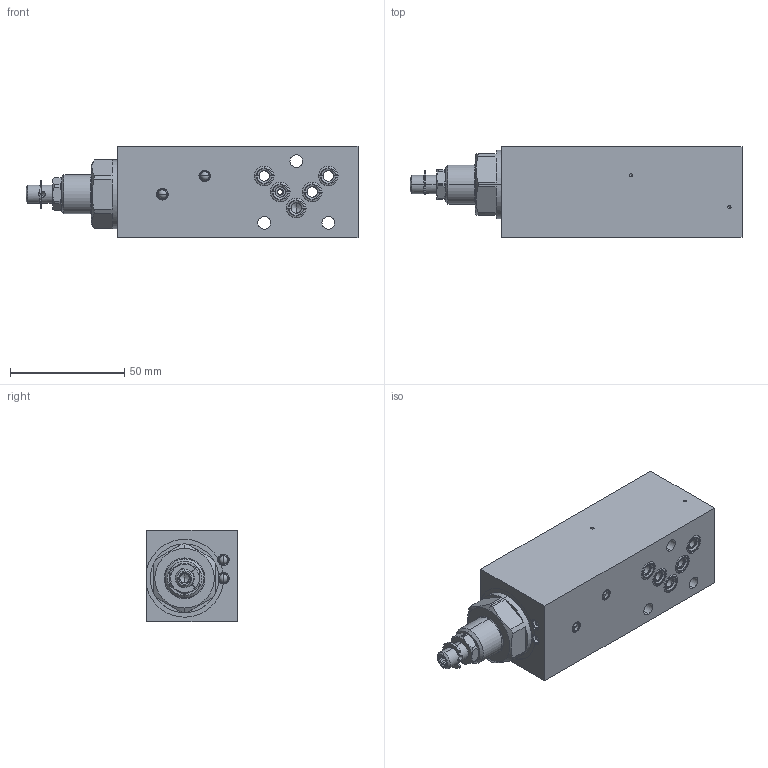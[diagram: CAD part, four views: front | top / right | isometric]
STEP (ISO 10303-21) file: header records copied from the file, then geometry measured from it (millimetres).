
FILE_DESCRIPTION (( 'STEP AP214' ), '1' );
FILE_NAME ('FVSSA04-A.STEP', '2017-03-23T07:18:05', ( '' ), ( '' ), 'SwSTEP 2.0', 'SolidWorks 2016', '' );
FILE_SCHEMA (( 'AUTOMOTIVE_DESIGN' ));
Length unit declared in the file: millimetre
Products named in the file (1): FVSSA04-A
Bounding box: 145.1 x 39.5 x 40 mm (x, y, z)
Volume: 170472.2 mm3; surface area: 29456.6 mm2
Topology: 12 solids, 16 shells, 375 faces, 874 edges, 523 vertices
Faces by surface type: cylinder 143, cone 87, plane 85, bspline 40, sphere 16, torus 4
Entity records: 15566 total; most frequent: CARTESIAN_POINT 2871, DIRECTION 1871, ORIENTED_EDGE 1696, EDGE_CURVE 848, AXIS2_PLACEMENT_3D 781, VERTEX_POINT 523, CIRCLE 445, EDGE_LOOP 423
